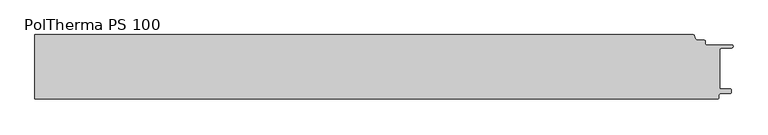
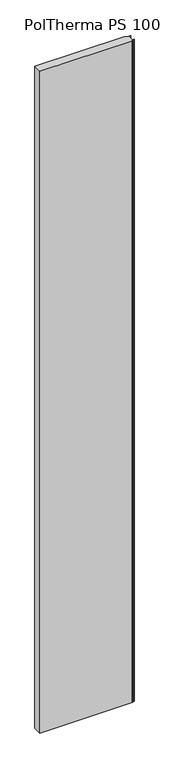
"""IFC4 building model written with IfcOpenShell, lengths in millimetres: plate geometry, Europanels_Poltherma PS_Vt : PolTherma PS 100."""

from ifc_helpers import new_model, si_unit, frame, origin, place, context, project, spatial, polyline, circle_curve, source, transform, mapped, element, save
from ifc_brep_helpers import plane_surface, cylinder_surface, revolved_surface, advanced_brep


def poltherma_ps_100_8c863d29(model_context):
    return source(origin(), model_context, "Body", "AdvancedBrep", [
        advanced_brep(
        [(509.7385671, 50.0, 8000.0), (-512.5, 50.0, 8000.0), (-512.5, -50.0, 8000.0), (547.2367317, -50.0, 8000.0), (549.2367317, -47.9973085, 8000.0), (549.2367317, -44.2360976, 8000.0), (551.1073545, -42.2402866, 8000.0), (567.3661089, -41.1863232, 8000.0), (569.2367317, -39.1905122, 8000.0), (569.2367317, -36.4412711, 8000.0), (567.3261148, -34.4432694, 8000.0), (550.7367317, -33.7011224, 8000.0), (550.7367317, 26.3385145, 8000.0), (553.281124, 28.9864093, 8000.0), (569.7991515, 29.6563291, 8000.0), (571.7426809, 31.7583212, 8000.0), (569.6405901, 33.9745062, 8000.0), (531.0271022, 34.0, 8000.0), (528.3771022, 36.65, 8000.0), (528.3771022, 39.65, 8000.0), (526.0271022, 42.0, 8000.0), (515.4574109, 42.0, 8000.0), (513.0968219, 43.7941649, 8000.0), (511.8101044, 48.4255288, 8000.0), (509.7385671, 50.0, 0.0), (511.8101044, 48.4255288, 0.0), (513.0968219, 43.7941649, 0.0), (515.4574109, 42.0, 0.0), (526.0271022, 42.0, 0.0), (528.3771022, 39.65, 0.0), (528.3771022, 36.65, 0.0), (531.0271022, 34.0, 0.0), (569.6367317, 34.0, 0.0), (571.7426809, 31.7583212, 0.0), (569.7991515, 29.6563291, 0.0), (553.281124, 28.9864093, 0.0), (550.7367317, 26.3385145, 0.0), (550.7367317, -33.7011224, 0.0), (567.3261148, -34.4432694, 0.0), (569.2367317, -36.4412711, 0.0), (569.2367317, -39.1905122, 0.0), (567.3661089, -41.1863232, 0.0), (551.1073545, -42.2402866, 0.0), (549.2367317, -44.2360976, 0.0), (549.2367317, -47.9973085, 0.0), (547.2367317, -49.9973085, 0.0), (-512.5, -50.0, 0.0), (-512.5, 50.0, 0.0)],
        [
            (0, 1),
            (1, 2),
            (2, 3),
            (3, 4, circle_curve(frame((547.2367317, -47.9973085, 8000.0), z_axis=(0.0, 0.0, 1.0), x_axis=(1.0, 0.0, 0.0)), 2.0)),
            (4, 5),
            (5, 6, circle_curve(frame((551.2367317, -44.2360976, 8000.0), z_axis=(0.0, 0.0, -1.0), x_axis=(1.0, 0.0, 0.0)), 2.0)),
            (6, 7),
            (7, 8, circle_curve(frame((567.2367317, -39.1905122, 8000.0), z_axis=(0.0, 0.0, 1.0), x_axis=(1.0, 0.0, 0.0)), 2.0)),
            (8, 9),
            (9, 10, circle_curve(frame((567.2367317, -36.4412711, 8000.0), z_axis=(0.0, 0.0, 1.0), x_axis=(1.0, 0.0, 0.0)), 2.0)),
            (10, 11),
            (11, 12),
            (12, 13, circle_curve(frame((553.3867317, 26.3385145, 8000.0), z_axis=(0.0, 0.0, -1.0), x_axis=(1.0, 0.0, 0.0)), 2.65)),
            (13, 14),
            (14, 15, circle_curve(frame((569.6342288, 31.7583212, 8000.0), z_axis=(0.0, 0.0, 1.0), x_axis=(1.0, 0.0, 0.0)), 2.1084521)),
            (15, 16, circle_curve(frame((569.6405901, 31.8694785, 8000.0), z_axis=(0.0, 0.0, 1.0), x_axis=(1.0, 0.0, 0.0)), 2.1050276)),
            (16, 17),
            (17, 18, circle_curve(frame((531.0271022, 36.65, 8000.0), z_axis=(0.0, 0.0, -1.0), x_axis=(1.0, 0.0, 0.0)), 2.65)),
            (18, 19),
            (19, 20, circle_curve(frame((526.0271022, 39.65, 8000.0), z_axis=(0.0, 0.0, 1.0), x_axis=(1.0, 0.0, 0.0)), 2.35)),
            (20, 21),
            (21, 22, circle_curve(frame((515.4574109, 44.45, 8000.0), z_axis=(0.0, 0.0, -1.0), x_axis=(1.0, 0.0, 0.0)), 2.45)),
            (22, 23),
            (23, 0, circle_curve(frame((509.7385671, 47.85, 8000.0), z_axis=(0.0, 0.0, 1.0), x_axis=(1.0, 0.0, 0.0)), 2.15)),
            (24, 25, circle_curve(frame((509.7385671, 47.85, 0.0), z_axis=(0.0, 0.0, -1.0), x_axis=(1.0, 0.0, 0.0)), 2.15)),
            (25, 26),
            (26, 27, circle_curve(frame((515.4574109, 44.45, 0.0), z_axis=(0.0, 0.0, 1.0), x_axis=(1.0, 0.0, 0.0)), 2.45)),
            (27, 28),
            (28, 29, circle_curve(frame((526.0271022, 39.65, 0.0), z_axis=(0.0, 0.0, -1.0), x_axis=(1.0, 0.0, 0.0)), 2.35)),
            (29, 30),
            (30, 31, circle_curve(frame((531.0271022, 36.65, 0.0), z_axis=(0.0, 0.0, 1.0), x_axis=(1.0, 0.0, 0.0)), 2.65)),
            (31, 32),
            (32, 33, circle_curve(frame((569.6405901, 31.8694785, 0.0), z_axis=(0.0, 0.0, -1.0), x_axis=(1.0, 0.0, 0.0)), 2.1050276)),
            (33, 34, circle_curve(frame((569.6342288, 31.7583212, 0.0), z_axis=(0.0, 0.0, -1.0), x_axis=(1.0, 0.0, 0.0)), 2.1084521)),
            (34, 35),
            (35, 36, circle_curve(frame((553.3867317, 26.3385145, 0.0), z_axis=(0.0, 0.0, 1.0), x_axis=(1.0, 0.0, 0.0)), 2.65)),
            (36, 37),
            (37, 38),
            (38, 39, circle_curve(frame((567.2367317, -36.4412711, 0.0), z_axis=(0.0, 0.0, -1.0), x_axis=(1.0, 0.0, 0.0)), 2.0)),
            (39, 40),
            (40, 41, circle_curve(frame((567.2367317, -39.1905122, 0.0), z_axis=(0.0, 0.0, -1.0), x_axis=(1.0, 0.0, 0.0)), 2.0)),
            (41, 42),
            (42, 43, circle_curve(frame((551.2367317, -44.2360976, 0.0), z_axis=(0.0, 0.0, 1.0), x_axis=(1.0, 0.0, 0.0)), 2.0)),
            (43, 44),
            (44, 45, circle_curve(frame((547.2367317, -47.9973085, 0.0), z_axis=(0.0, 0.0, -1.0), x_axis=(1.0, 0.0, 0.0)), 2.0)),
            (45, 46),
            (46, 47),
            (47, 24),
            (0, 24),
            (47, 1),
            (2, 46),
            (45, 3),
            (44, 4),
            (43, 5),
            (42, 6),
            (41, 7),
            (40, 8),
            (39, 9),
            (38, 10),
            (37, 11),
            (36, 12),
            (35, 13),
            (34, 14),
            (33, 15),
            (32, 16),
            (31, 17),
            (30, 18),
            (29, 19),
            (28, 20),
            (27, 21),
            (26, 22),
            (25, 23),
        ],
        [
            plane_surface(frame((-512.5, 50.0, 8000.0), z_axis=(0.0, 0.0, 1.0), x_axis=(-1.0, 0.0, 0.0))),
            plane_surface(frame((-512.5, 50.0, 0.0), z_axis=(0.0, 0.0, -1.0), x_axis=(1.0, 0.0, 0.0))),
            plane_surface(frame((509.7385671, 50.0, 8000.0), z_axis=(0.0, 1.0, 0.0), x_axis=(0.0, 0.0, -1.0))),
            plane_surface(frame((-512.5, -50.0, 8000.0), z_axis=(0.0, -1.0, 0.0), x_axis=(0.0, 0.0, -1.0))),
            plane_surface(frame((-512.5, 50.0, 8000.0), z_axis=(-1.0, 0.0, 0.0), x_axis=(0.0, 0.0, -1.0))),
            cylinder_surface(frame((547.2367317, -47.9973085, 0.0), z_axis=(0.0, 0.0, 1.0), x_axis=(1.0, 0.0, 0.0)), 2.0),
            plane_surface(frame((549.2367317, -47.9973085, 8000.0), z_axis=(1.0, 0.0, 0.0), x_axis=(0.0, 0.0, -1.0))),
            revolved_surface(polyline([(553.2367317, -44.2360976, 0.0), (553.2367317, -44.2360976, 8000.0)]), (551.2367317, -44.2360976, 0.0), (0.0, 0.0, -1.0)),
            plane_surface(frame((551.1073545, -42.2402866, 8000.0), z_axis=(0.06468859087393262, -0.9979054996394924, 0.0), x_axis=(0.0, 0.0, -1.0))),
            cylinder_surface(frame((567.2367317, -39.1905122, 0.0), z_axis=(0.0, 0.0, 1.0), x_axis=(1.0, 0.0, 0.0)), 2.0),
            plane_surface(frame((569.2367317, -39.1905122, 8000.0), z_axis=(1.0, 0.0, 0.0), x_axis=(0.0, 0.0, -1.0))),
            cylinder_surface(frame((567.2367317, -36.4412711, 0.0), z_axis=(0.0, 0.0, 1.0), x_axis=(1.0, 0.0, 0.0)), 2.0),
            plane_surface(frame((567.3261148, -34.4432694, 8000.0), z_axis=(0.044691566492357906, 0.9990008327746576, 0.0), x_axis=(0.0, 0.0, -1.0))),
            plane_surface(frame((550.7367317, -33.7011224, 8000.0), z_axis=(1.0, 0.0, 0.0), x_axis=(0.0, 0.0, -1.0))),
            revolved_surface(polyline([(556.0367317, 26.3385145, 0.0), (556.0367317, 26.3385145, 8000.0)]), (553.3867317, 26.3385145, 0.0), (0.0, 0.0, -1.0)),
            plane_surface(frame((553.281124, 28.9864093, 8000.0), z_axis=(0.04052357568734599, -0.999178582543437, 0.0), x_axis=(0.0, 0.0, -1.0))),
            cylinder_surface(frame((569.6342288, 31.7583212, 0.0), z_axis=(0.0, 0.0, 1.0), x_axis=(1.0, 0.0, 0.0)), 2.1084521),
            cylinder_surface(frame((569.6405901, 31.8694785, 0.0), z_axis=(0.0, 0.0, 1.0), x_axis=(1.0, 0.0, 0.0)), 2.1050276),
            plane_surface(frame((569.6367317, 34.0, 8000.0), z_axis=(0.0, 1.0, 0.0), x_axis=(0.0, 0.0, -1.0))),
            revolved_surface(polyline([(533.6771021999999, 36.65, 0.0), (533.6771021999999, 36.65, 8000.0)]), (531.0271022, 36.65, 0.0), (0.0, 0.0, -1.0)),
            plane_surface(frame((528.3771022, 36.65, 8000.0), z_axis=(1.0, 0.0, 0.0), x_axis=(0.0, 0.0, -1.0))),
            cylinder_surface(frame((526.0271022, 39.65, 0.0), z_axis=(0.0, 0.0, 1.0), x_axis=(1.0, 0.0, 0.0)), 2.35),
            plane_surface(frame((526.0271022, 42.0, 8000.0), z_axis=(0.0, 1.0, 0.0), x_axis=(0.0, 0.0, -1.0))),
            revolved_surface(polyline([(517.9074109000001, 44.45, 0.0), (517.9074109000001, 44.45, 8000.0)]), (515.4574109, 44.45, 0.0), (0.0, 0.0, -1.0)),
            plane_surface(frame((513.0968219, 43.7941649, 8000.0), z_axis=(0.9635057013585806, 0.26768780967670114, 0.0), x_axis=(0.0, 0.0, -1.0))),
            cylinder_surface(frame((509.7385671, 47.85, 0.0), z_axis=(0.0, 0.0, 1.0), x_axis=(1.0, 0.0, 0.0)), 2.15),
        ],
        [
            (0, [[1, 2, 3, 4, 5, 6, 7, 8, 9, 10, 11, 12, 13, 14, 15, 16, 17, 18, 19, 20, 21, 22, 23, 24]]),
            (1, [[25, 26, 27, 28, 29, 30, 31, 32, 33, 34, 35, 36, 37, 38, 39, 40, 41, 42, 43, 44, 45, 46, 47, 48]]),
            (2, [[-1, 49, -48, 50]]),
            (3, [[-3, 51, -46, 52]]),
            (4, [[-2, -50, -47, -51]]),
            (5, [[-4, -52, -45, 53]]),
            (6, [[-5, -53, -44, 54]]),
            (7, [[-6, -54, -43, 55]]),
            (8, [[-7, -55, -42, 56]]),
            (9, [[-8, -56, -41, 57]]),
            (10, [[-9, -57, -40, 58]]),
            (11, [[-10, -58, -39, 59]]),
            (12, [[-11, -59, -38, 60]]),
            (13, [[-12, -60, -37, 61]]),
            (14, [[-13, -61, -36, 62]]),
            (15, [[-14, -62, -35, 63]]),
            (16, [[-15, -63, -34, 64]]),
            (17, [[-16, -64, -33, 65]]),
            (18, [[-17, -65, -32, 66]]),
            (19, [[-18, -66, -31, 67]]),
            (20, [[-19, -67, -30, 68]]),
            (21, [[-20, -68, -29, 69]]),
            (22, [[-21, -69, -28, 70]]),
            (23, [[-22, -70, -27, 71]]),
            (24, [[-23, -71, -26, 72]]),
            (25, [[-24, -72, -25, -49]]),
        ],
    ),
    ])


if __name__ == "__main__":
    model = new_model("IFC4")
    model_context = context("Model", 3, world=origin())
    ifc_project = project(units=[si_unit("LENGTHUNIT", "METRE", prefix="MILLI")], contexts=[model_context])
    site = spatial("IfcSite", under=ifc_project)
    building = spatial("IfcBuilding", under=site)
    placement = place(None, origin())
    poltherma_ps_100_shape = poltherma_ps_100_8c863d29(model_context)
    element("IfcPlate", 1, ObjectType="Europanels_Poltherma PS_Vt : PolTherma PS 100", at=placement, inside=building, context=model_context, shape_type="MappedRepresentation", body=[
        mapped(poltherma_ps_100_shape, transform((0.0, 0.0, 0.0), x_axis=(1.0, 0.0, 0.0), y_axis=(0.0, 1.0, 0.0), z_axis=(0.0, 0.0, 1.0))),
    ])
    save(model, "model.ifc")
